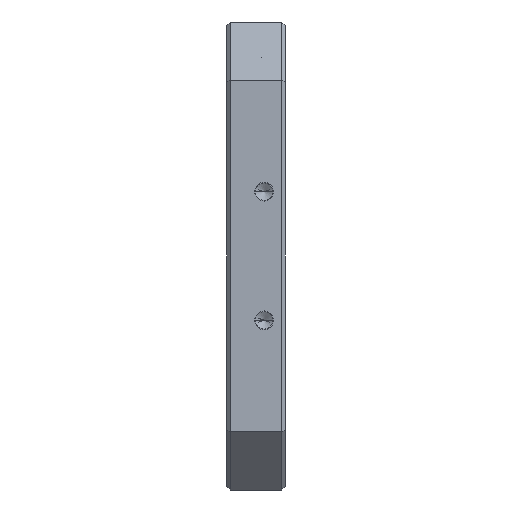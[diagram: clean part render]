
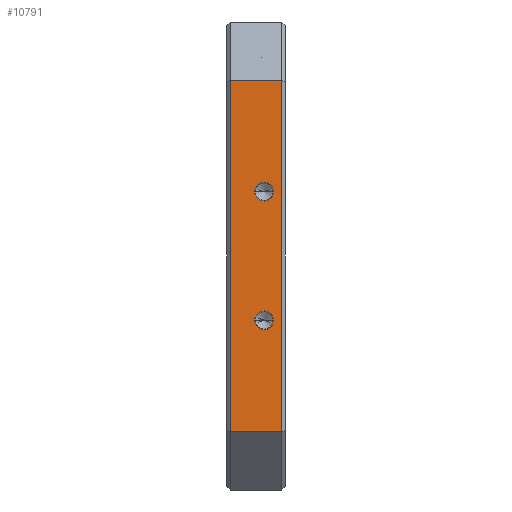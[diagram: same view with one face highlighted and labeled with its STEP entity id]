
A CAD part, left-side view. The second image highlights one B-rep face of the part: STEP entity #10791.
In plain terms, the highlighted planar face has unit normal (-1, 0, 0).
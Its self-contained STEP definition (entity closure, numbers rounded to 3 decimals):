
#3777=CARTESIAN_POINT('',(-200.,-7.,-55.));
#3778=DIRECTION('',(-1.,0.,0.));
#3779=DIRECTION('',(0.,1.,0.));
#3780=AXIS2_PLACEMENT_3D('',#3777,#3778,#3779);
#3782=CARTESIAN_POINT('',(-200.,-7.,-55.));
#3783=DIRECTION('',(-1.,0.,0.));
#3784=DIRECTION('',(0.,-1.,0.));
#3785=AXIS2_PLACEMENT_3D('',#3782,#3783,#3784);
#3787=CARTESIAN_POINT('',(-200.,-7.,55.));
#3788=DIRECTION('',(1.,0.,0.));
#3789=DIRECTION('',(0.,1.,0.));
#3790=AXIS2_PLACEMENT_3D('',#3787,#3788,#3789);
#3792=CARTESIAN_POINT('',(-200.,-7.,55.));
#3793=DIRECTION('',(1.,0.,0.));
#3794=DIRECTION('',(0.,-1.,0.));
#3795=AXIS2_PLACEMENT_3D('',#3792,#3793,#3794);
#3797=DIRECTION('',(0.,0.,1.));
#3798=VECTOR('',#3797,300.);
#3799=CARTESIAN_POINT('',(-200.,22.,-150.));
#3800=LINE('',#3799,#3798);
#3801=DIRECTION('',(0.,-1.,0.));
#3802=VECTOR('',#3801,44.);
#3803=CARTESIAN_POINT('',(-200.,22.,150.));
#3804=LINE('',#3803,#3802);
#3805=DIRECTION('',(0.,0.,-1.));
#3806=VECTOR('',#3805,300.);
#3807=CARTESIAN_POINT('',(-200.,-22.,150.));
#3808=LINE('',#3807,#3806);
#3809=DIRECTION('',(0.,-1.,0.));
#3810=VECTOR('',#3809,44.);
#3811=CARTESIAN_POINT('',(-200.,22.,-150.));
#3812=LINE('',#3811,#3810);
#4491=CARTESIAN_POINT('',(-200.,0.5,-55.));
#4492=CARTESIAN_POINT('',(-200.,-14.5,-55.));
#4493=VERTEX_POINT('',#4491);
#4494=VERTEX_POINT('',#4492);
#4501=CARTESIAN_POINT('',(-200.,0.5,55.));
#4502=VERTEX_POINT('',#4501);
#4503=CARTESIAN_POINT('',(-200.,-14.5,55.));
#4504=VERTEX_POINT('',#4503);
#4531=CARTESIAN_POINT('',(-200.,22.,-150.));
#4532=VERTEX_POINT('',#4531);
#4535=CARTESIAN_POINT('',(-200.,22.,150.));
#4536=VERTEX_POINT('',#4535);
#4565=CARTESIAN_POINT('',(-200.,-22.,-150.));
#4566=VERTEX_POINT('',#4565);
#4567=CARTESIAN_POINT('',(-200.,-22.,150.));
#4568=VERTEX_POINT('',#4567);
#10766=CARTESIAN_POINT('',(-200.,-25.,-200.));
#10767=DIRECTION('',(-1.,0.,0.));
#10768=DIRECTION('',(0.,0.,1.));
#10769=AXIS2_PLACEMENT_3D('',#10766,#10767,#10768);
#10770=PLANE('',#10769);
#10772=ORIENTED_EDGE('',*,*,#10771,.T.);
#10773=ORIENTED_EDGE('',*,*,#10734,.T.);
#10774=ORIENTED_EDGE('',*,*,#10757,.T.);
#10776=ORIENTED_EDGE('',*,*,#10775,.F.);
#10777=EDGE_LOOP('',(#10772,#10773,#10774,#10776));
#10778=FACE_OUTER_BOUND('',#10777,.F.);
#10780=ORIENTED_EDGE('',*,*,#10779,.F.);
#10782=ORIENTED_EDGE('',*,*,#10781,.F.);
#10783=EDGE_LOOP('',(#10780,#10782));
#10784=FACE_BOUND('',#10783,.F.);
#10786=ORIENTED_EDGE('',*,*,#10785,.T.);
#10788=ORIENTED_EDGE('',*,*,#10787,.T.);
#10789=EDGE_LOOP('',(#10786,#10788));
#10790=FACE_BOUND('',#10789,.F.);
#10791=ADVANCED_FACE('',(#10778,#10784,#10790),#10770,.T.);
#3781=CIRCLE('',#3780,7.5);
#3786=CIRCLE('',#3785,7.5);
#3791=CIRCLE('',#3790,7.5);
#3796=CIRCLE('',#3795,7.5);
#10734=EDGE_CURVE('',#4536,#4568,#3804,.T.);
#10757=EDGE_CURVE('',#4568,#4566,#3808,.T.);
#10771=EDGE_CURVE('',#4532,#4536,#3800,.T.);
#10775=EDGE_CURVE('',#4532,#4566,#3812,.T.);
#10779=EDGE_CURVE('',#4502,#4504,#3791,.T.);
#10781=EDGE_CURVE('',#4504,#4502,#3796,.T.);
#10785=EDGE_CURVE('',#4493,#4494,#3781,.T.);
#10787=EDGE_CURVE('',#4494,#4493,#3786,.T.);
